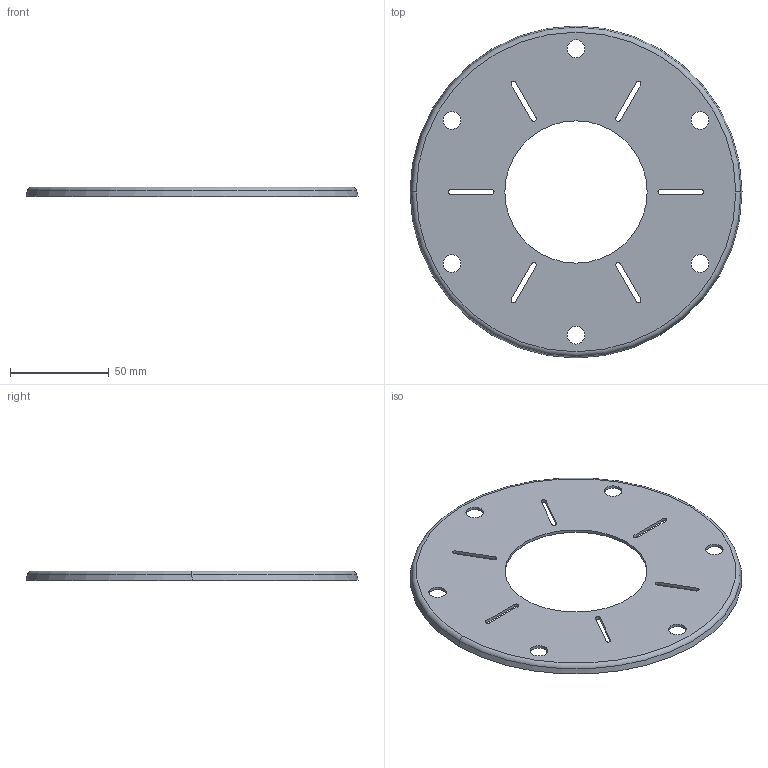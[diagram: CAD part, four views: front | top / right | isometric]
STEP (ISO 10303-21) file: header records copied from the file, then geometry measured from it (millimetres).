
FILE_DESCRIPTION (( 'STEP AP214' ), '1' );
FILE_NAME ('0638 Reibscheibe.STEP', '2025-03-26T12:06:36', ( '' ), ( '' ), 'SwSTEP 2.0', 'SolidWorks 2022', '' );
FILE_SCHEMA (( 'AUTOMOTIVE_DESIGN' ));
Length unit declared in the file: millimetre
Products named in the file (1): 0638 Reibscheibe
Bounding box: 168.04 x 168.04 x 5 mm (x, y, z)
Volume: 27588.3 mm3; surface area: 38722.2 mm2
Topology: 1 solids, 1 shells, 56 faces, 154 edges, 100 vertices
Faces by surface type: cylinder 32, plane 14, cone 6, torus 4
Entity records: 1900 total; most frequent: DIRECTION 348, CARTESIAN_POINT 311, ORIENTED_EDGE 308, EDGE_CURVE 154, AXIS2_PLACEMENT_3D 137, VERTEX_POINT 100, EDGE_LOOP 82, CIRCLE 80
